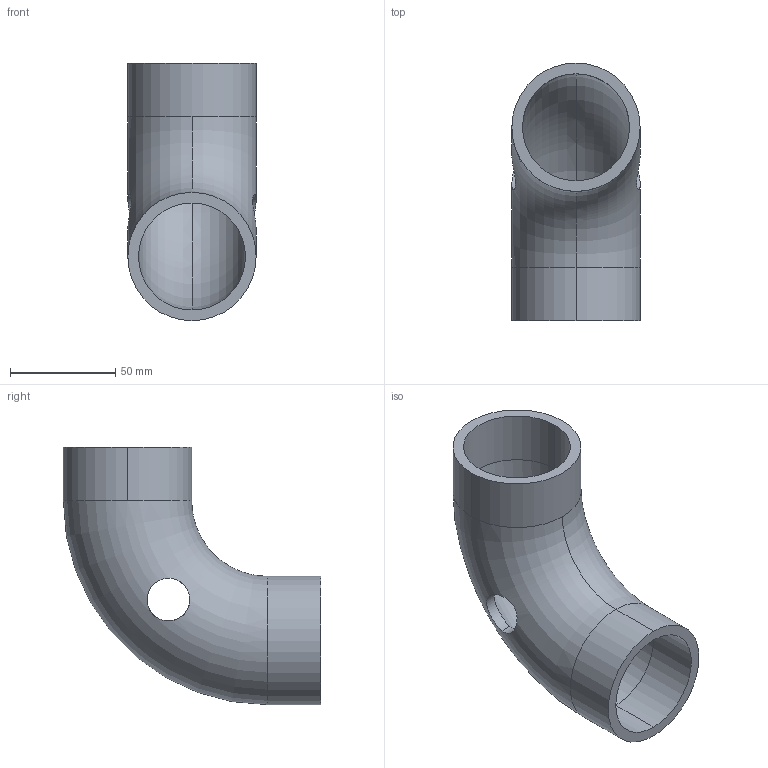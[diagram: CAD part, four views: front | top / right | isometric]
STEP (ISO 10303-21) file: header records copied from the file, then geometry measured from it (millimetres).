
FILE_DESCRIPTION (( 'STEP AP214' ), '1' );
FILE_NAME ('Tube Connector 3.STEP', '2025-11-11T16:04:20', ( '' ), ( '' ), 'SwSTEP 2.0', 'SolidWorks 2025', '' );
FILE_SCHEMA (( 'AUTOMOTIVE_DESIGN' ));
Length unit declared in the file: inch
Products named in the file (1): Tube Connector 3
Bounding box: 60.96 x 122.28 x 122.28 mm (x, y, z)
Volume: 134968.7 mm3; surface area: 55592.5 mm2
Topology: 1 solids, 1 shells, 18 faces, 44 edges, 28 vertices
Faces by surface type: cylinder 12, torus 4, plane 2
Entity records: 945 total; most frequent: CARTESIAN_POINT 473, DIRECTION 98, ORIENTED_EDGE 88, EDGE_CURVE 44, AXIS2_PLACEMENT_3D 43, VERTEX_POINT 28, CIRCLE 24, EDGE_LOOP 24
